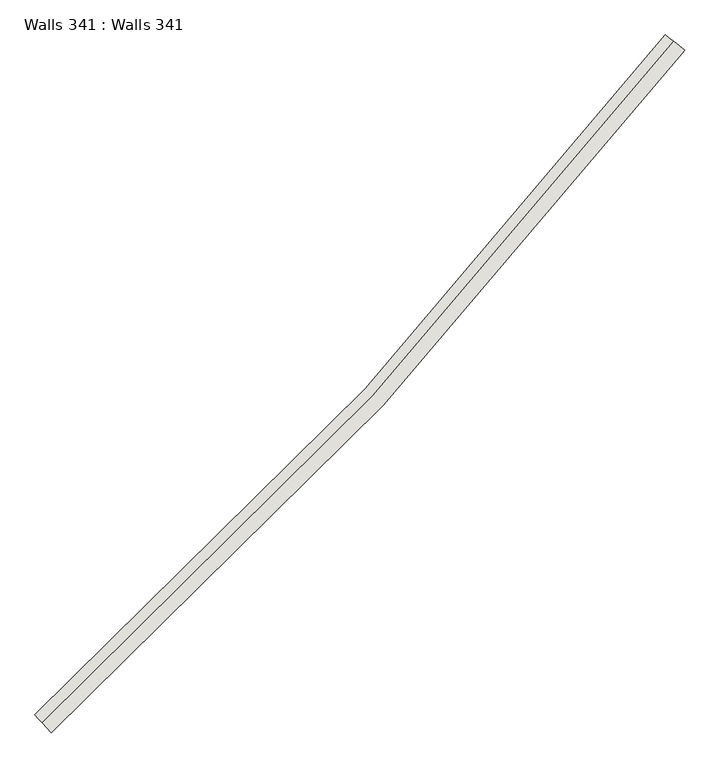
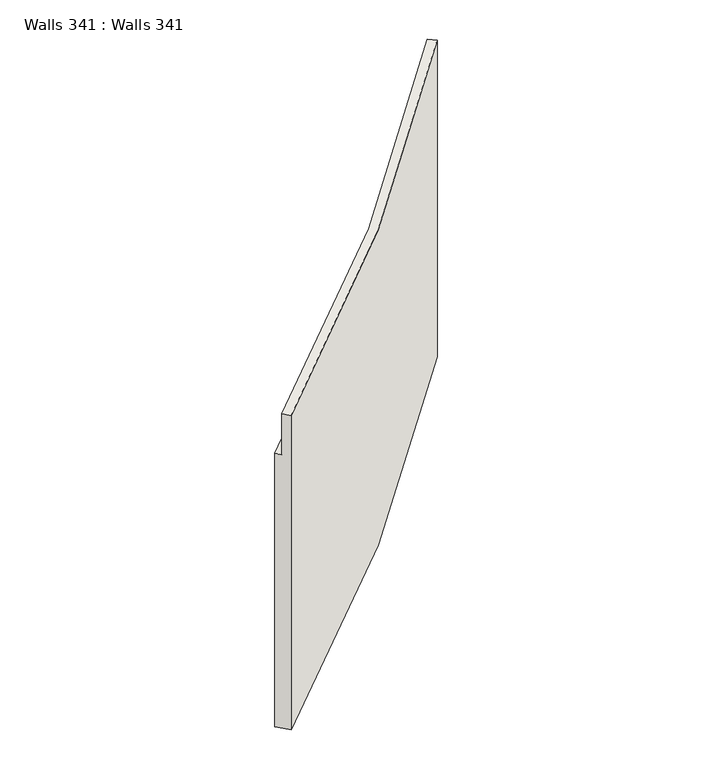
"""IFC4 building model written with IfcOpenShell, lengths in millimetres: wall geometry, Walls 341 : Walls 341."""

from ifc_helpers import new_model, si_unit, frame, origin, place, context, project, spatial, source, transform, mapped, element, save
from ifc_brep_helpers import plane_surface, spline_curve, spline_surface, advanced_brep


def walls_341_walls_341_388866be(model_context):
    return source(origin(), model_context, "Body", "AdvancedBrep", [
        advanced_brep(
        [(89831.9681821, -16068.2037455, 639913.0), (90066.6527194, -16327.8634612, 639913.0), (90066.6527194, -16327.8634612, 647621.0), (89932.5472695, -16179.4864808, 647621.0), (89932.5472695, -16179.4864808, 646621.0), (89831.9681821, -16068.2037455, 646621.0), (98768.793639, -6431.4807325, 640056.0), (98768.793639, -6431.4807325, 646824.0), (98887.3301787, -6523.3996573, 646824.0), (98887.3301787, -6523.3996573, 647824.0), (99045.3788984, -6645.9582238, 647824.0), (99045.3788984, -6645.9582238, 640056.0)],
        [
            (0, 1),
            (1, 2),
            (2, 3),
            (3, 4),
            (4, 5),
            (5, 0),
            (6, 7),
            (7, 8),
            (8, 9),
            (9, 10),
            (10, 11),
            (11, 6),
            (11, 1, spline_curve(3, [(99045.3788984, -6645.9582238, 640056.0), (97695.034979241, -8387.330807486, 640032.166666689), (96267.896604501, -10069.151874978, 640008.333333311), (93271.110406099, -13300.634761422, 639960.666666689), (91701.462581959, -14850.296580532, 639936.833333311), (90066.6527194, -16327.8634612, 639913.0)], [4, 2, 4], [0.0, 21.63634232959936, 43.272684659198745])),
            (0, 6, spline_curve(3, [(89831.9681821, -16068.2037455, 639913.0), (91459.148932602, -14597.532176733, 639936.833333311), (93021.471732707, -13055.102112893, 639960.666666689), (96004.272929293, -9838.699480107, 640008.333333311), (97424.751324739, -8164.726910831, 640032.166666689), (98768.793639, -6431.4807325, 640056.0)], [4, 2, 4], [0.0, 21.636342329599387, 43.272684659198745])),
            (10, 2, spline_curve(3, [(99045.3788984, -6645.9582238, 647824.0), (97695.03497957, -8387.330807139, 647790.166666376), (96267.896604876, -10069.151874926, 647756.333333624), (93271.110405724, -13300.634761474, 647688.666666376), (91701.462582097, -14850.296580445, 647654.833333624), (90066.6527194, -16327.8634612, 647621.0)], [4, 2, 4], [0.0, 21.687527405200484, 43.375054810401])),
            (9, 3, spline_curve(3, [(98887.3301787, -6523.3996573, 647824.0), (97540.587176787, -8260.128580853, 647790.166667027), (96117.254504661, -9937.464791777, 647756.333332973), (93128.459735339, -13160.330391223, 647688.666667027), (91562.997639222, -14705.859778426, 647654.833332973), (89932.5472695, -16179.4864808, 647621.0)], [4, 2, 4], [0.0, 21.65931638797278, 43.31863277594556])),
            (8, 4, spline_curve(3, [(98887.3301787, -6523.3996573, 646824.0), (97540.587176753, -8260.128580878, 646790.166666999), (96117.254504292, -9937.464792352, 646756.333333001), (93128.459735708, -13160.330390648, 646688.666666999), (91562.997639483, -14705.859778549, 646654.833333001), (89932.5472695, -16179.4864808, 646621.0)], [4, 2, 4], [0.0, 21.630405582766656, 43.26081116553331])),
            (7, 5, spline_curve(3, [(98768.793639, -6431.4807325, 646824.0), (97424.751324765, -8164.726910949, 646790.166666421), (96004.272928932, -9838.699479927, 646756.333333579), (93021.471733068, -13055.102113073, 646688.666666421), (91459.14893231, -14597.532176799, 646654.833333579), (89831.9681821, -16068.2037455, 646621.0)], [4, 2, 4], [0.0, 21.608722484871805, 43.21744496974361])),
        ],
        [
            plane_surface(frame((89943.7227236, -16191.8512292, 644718.3333333), z_axis=(-0.7418849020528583, -0.6705272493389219, 0.0), x_axis=(0.6705272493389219, -0.7418849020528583, 0.0))),
            plane_surface(frame((98900.5009054, -6533.6128712, 644901.3333333), z_axis=(0.6127928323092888, 0.7902435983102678, 0.0), x_axis=(0.7902435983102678, -0.6127928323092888, 0.0))),
            spline_surface(3, 3, [[(98768.793639, -6431.4807325, 640056.0), (97424.751324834, -8164.7269107, 640032.166666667), (96004.272929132, -9838.699479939, 640008.333333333), (93021.471732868, -13055.102113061, 639960.666666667), (91459.14893231, -14597.53217691, 639936.833333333), (89831.9681821, -16068.2037455, 639913.0)], [(98814.891182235, -6467.226981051, 640056.0), (97469.798600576, -8201.827560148, 640032.166666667), (96048.210208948, -9877.108211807, 640008.333333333), (93063.078177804, -13096.02422177, 639960.666666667), (91499.534540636, -14639.659577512, 639936.833333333), (89871.082271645, -16111.480364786, 639913.0)], [(98860.988725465, -6502.973229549, 640056.0), (97514.845876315, -8238.928209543, 640032.166666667), (96092.147487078, -9915.516945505, 640008.333333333), (93104.68462457, -13136.946328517, 639960.666666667), (91539.920148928, -14681.786978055, 639936.833333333), (89910.196361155, -16154.756984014, 639913.0)], [(98953.183811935, -6574.465726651, 640056.0), (97604.940427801, -8313.129508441, 640032.166666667), (96180.02204671, -9992.334409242, 640008.333333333), (93187.897514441, -13218.790545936, 639960.666666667), (91620.69136558, -14766.041779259, 639936.833333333), (89988.424540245, -16241.310222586, 639913.0)], [(98999.281355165, -6610.211975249, 640056.0), (97649.987703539, -8350.230157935, 640032.166666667), (96223.959324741, -10030.74314304, 640008.333333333), (93229.503961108, -13259.712652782, 639960.666666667), (91661.076973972, -14808.169179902, 639936.833333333), (90027.538629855, -16284.586841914, 639913.0)], [(99045.3788984, -6645.9582238, 640056.0), (97695.034979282, -8387.330807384, 640032.166666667), (96267.896604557, -10069.151874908, 640008.333333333), (93271.110406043, -13300.634761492, 639960.666666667), (91701.462582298, -14850.296580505, 639936.833333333), (90066.6527194, -16327.8634612, 639913.0)]], [4, 2, 4], [4, 2, 4], [0.0, 0.5741469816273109, 1.1482939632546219], [0.0, 21.63634232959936, 43.272684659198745]),
            spline_surface(3, 3, [[(99045.3788984, -6645.9582238, 640056.0), (97695.034979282, -8387.330807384, 640032.166666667), (96267.896604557, -10069.151874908, 640008.333333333), (93271.110406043, -13300.634761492, 639960.666666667), (91701.462582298, -14850.296580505, 639936.833333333), (90066.6527194, -16327.8634612, 639913.0)], [(99045.3788984, -6645.9582238, 641350.666666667), (97695.034979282, -8387.330807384, 641325.166666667), (96267.896604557, -10069.151874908, 641299.666666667), (93271.110406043, -13300.634761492, 641248.666666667), (91701.462582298, -14850.296580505, 641223.166666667), (90066.6527194, -16327.8634612, 641197.666666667)], [(99045.3788984, -6645.9582238, 642645.333333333), (97695.034979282, -8387.330807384, 642618.166666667), (96267.896604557, -10069.151874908, 642591.0), (93271.110406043, -13300.634761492, 642536.666666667), (91701.462582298, -14850.296580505, 642509.5), (90066.6527194, -16327.8634612, 642482.333333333)], [(99045.3788984, -6645.9582238, 645234.666666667), (97695.034979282, -8387.330807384, 645204.166666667), (96267.896604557, -10069.151874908, 645173.666666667), (93271.110406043, -13300.634761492, 645112.666666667), (91701.462582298, -14850.296580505, 645082.166666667), (90066.6527194, -16327.8634612, 645051.666666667)], [(99045.3788984, -6645.9582238, 646529.333333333), (97695.034979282, -8387.330807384, 646497.166666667), (96267.896604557, -10069.151874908, 646465.0), (93271.110406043, -13300.634761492, 646400.666666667), (91701.462582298, -14850.296580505, 646368.5), (90066.6527194, -16327.8634612, 646336.333333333)], [(99045.3788984, -6645.9582238, 647824.0), (97695.034979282, -8387.330807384, 647790.166666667), (96267.896604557, -10069.151874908, 647756.333333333), (93271.110406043, -13300.634761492, 647688.666666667), (91701.462582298, -14850.296580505, 647654.833333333), (90066.6527194, -16327.8634612, 647621.0)]], [4, 2, 4], [4, 2, 4], [0.0, 12.6935695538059, 25.3871391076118], [0.0, 21.687527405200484, 43.375054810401]),
            spline_surface(3, 3, [[(99045.3788984, -6645.9582238, 647824.0), (97695.034979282, -8387.330807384, 647790.166666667), (96267.896604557, -10069.151874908, 647756.333333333), (93271.110406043, -13300.634761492, 647688.666666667), (91701.462582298, -14850.296580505, 647654.833333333), (90066.6527194, -16327.8634612, 647621.0)], [(99019.037445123, -6625.531796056, 647824.0), (97669.293678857, -8366.13043627, 647790.166666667), (96242.789587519, -10047.204028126, 647756.333333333), (93247.335294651, -13277.250699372, 647688.666666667), (91678.385091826, -14826.22378016, 647654.833333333), (90044.301811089, -16303.133964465, 647621.0)], [(98992.695991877, -6605.105368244, 647824.0), (97643.552378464, -8344.930065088, 647790.166666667), (96217.68257153, -10025.256180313, 647756.333333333), (93223.560182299, -13253.866638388, 647688.666666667), (91655.307601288, -14802.150979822, 647654.833333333), (90021.950902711, -16278.404467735, 647621.0)], [(98940.013085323, -6564.252512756, 647824.0), (97592.069777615, -8302.529322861, 647790.166666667), (96167.468537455, -9981.360486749, 647756.333333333), (93176.009959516, -13207.098514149, 647688.666666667), (91609.152620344, -14754.005379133, 647654.833333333), (89977.249086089, -16228.945474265, 647621.0)], [(98913.671631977, -6543.826085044, 647824.0), (97566.328477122, -8281.328951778, 647790.166666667), (96142.361521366, -9959.412638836, 647756.333333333), (93152.234847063, -13183.714453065, 647688.666666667), (91586.075129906, -14729.932578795, 647654.833333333), (89954.898177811, -16204.215977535, 647621.0)], [(98887.3301787, -6523.3996573, 647824.0), (97540.587176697, -8260.128580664, 647790.166666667), (96117.254504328, -9937.464792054, 647756.333333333), (93128.459735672, -13160.330390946, 647688.666666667), (91562.997639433, -14705.85977845, 647654.833333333), (89932.5472695, -16179.4864808, 647621.0)]], [4, 2, 4], [4, 2, 4], [0.0, 0.32808398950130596, 0.6561679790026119], [0.0, 21.65931638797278, 43.31863277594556]),
            spline_surface(3, 3, [[(98887.3301787, -6523.3996573, 647824.0), (97540.587176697, -8260.128580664, 647790.166666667), (96117.254504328, -9937.464792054, 647756.333333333), (93128.459735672, -13160.330390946, 647688.666666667), (91562.997639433, -14705.85977845, 647654.833333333), (89932.5472695, -16179.4864808, 647621.0)], [(98887.3301787, -6523.3996573, 647657.333333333), (97540.587176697, -8260.128580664, 647623.5), (96117.254504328, -9937.464792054, 647589.666666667), (93128.459735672, -13160.330390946, 647522.0), (91562.997639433, -14705.85977845, 647488.166666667), (89932.5472695, -16179.4864808, 647454.333333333)], [(98887.3301787, -6523.3996573, 647490.666666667), (97540.587176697, -8260.128580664, 647456.833333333), (96117.254504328, -9937.464792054, 647423.0), (93128.459735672, -13160.330390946, 647355.333333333), (91562.997639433, -14705.85977845, 647321.5), (89932.5472695, -16179.4864808, 647287.666666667)], [(98887.3301787, -6523.3996573, 647157.333333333), (97540.587176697, -8260.128580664, 647123.5), (96117.254504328, -9937.464792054, 647089.666666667), (93128.459735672, -13160.330390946, 647022.0), (91562.997639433, -14705.85977845, 646988.166666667), (89932.5472695, -16179.4864808, 646954.333333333)], [(98887.3301787, -6523.3996573, 646990.666666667), (97540.587176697, -8260.128580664, 646956.833333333), (96117.254504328, -9937.464792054, 646923.0), (93128.459735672, -13160.330390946, 646855.333333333), (91562.997639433, -14705.85977845, 646821.5), (89932.5472695, -16179.4864808, 646787.666666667)], [(98887.3301787, -6523.3996573, 646824.0), (97540.587176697, -8260.128580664, 646790.166666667), (96117.254504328, -9937.464792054, 646756.333333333), (93128.459735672, -13160.330390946, 646688.666666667), (91562.997639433, -14705.85977845, 646654.833333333), (89932.5472695, -16179.4864808, 646621.0)]], [4, 2, 4], [4, 2, 4], [0.0, 1.6404199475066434, 3.280839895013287], [0.0, 21.630405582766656, 43.26081116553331]),
            spline_surface(3, 3, [[(98887.3301787, -6523.3996573, 646824.0), (97540.587176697, -8260.128580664, 646790.166666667), (96117.254504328, -9937.464792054, 646756.333333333), (93128.459735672, -13160.330390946, 646688.666666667), (91562.997639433, -14705.85977845, 646654.833333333), (89932.5472695, -16179.4864808, 646621.0)], [(98867.574088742, -6508.079836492, 646824.0), (97521.281201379, -8244.228302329, 646790.166666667), (96098.42424155, -9921.003906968, 646756.333333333), (93110.628402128, -13142.792344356, 646688.666666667), (91545.689521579, -14687.805178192, 646654.833333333), (89915.784088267, -16160.939358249, 646621.0)], [(98847.817998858, -6492.760015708, 646824.0), (97501.975226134, -8228.328024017, 646790.166666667), (96079.593979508, -9904.543021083, 646756.333333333), (93092.797067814, -13125.254298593, 646688.666666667), (91528.381403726, -14669.750577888, 646654.833333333), (89899.020907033, -16142.392235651, 646621.0)], [(98808.305818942, -6462.120374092, 646824.0), (97463.363275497, -8196.527467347, 646790.166666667), (96041.933453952, -9871.62125091, 646756.333333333), (93057.134400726, -13090.178205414, 646688.666666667), (91493.765168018, -14633.641377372, 646654.833333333), (89865.494544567, -16105.297990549, 646621.0)], [(98788.549728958, -6446.800553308, 646824.0), (97444.057300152, -8180.627189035, 646790.166666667), (96023.10319191, -9855.160365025, 646756.333333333), (93039.303066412, -13072.640159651, 646688.666666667), (91476.457050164, -14615.586777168, 646654.833333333), (89848.731363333, -16086.750868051, 646621.0)], [(98768.793639, -6431.4807325, 646824.0), (97424.751324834, -8164.7269107, 646790.166666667), (96004.272929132, -9838.699479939, 646756.333333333), (93021.471732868, -13055.102113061, 646688.666666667), (91459.14893231, -14597.53217691, 646654.833333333), (89831.9681821, -16068.2037455, 646621.0)]], [4, 2, 4], [4, 2, 4], [0.0, 0.24606299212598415, 0.4921259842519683], [0.0, 21.608722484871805, 43.21744496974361]),
            spline_surface(3, 3, [[(98768.793639, -6431.4807325, 646824.0), (97424.751324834, -8164.7269107, 646790.166666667), (96004.272929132, -9838.699479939, 646756.333333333), (93021.471732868, -13055.102113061, 646688.666666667), (91459.14893231, -14597.53217691, 646654.833333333), (89831.9681821, -16068.2037455, 646621.0)], [(98768.793639, -6431.4807325, 645696.0), (97424.751324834, -8164.7269107, 645663.833333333), (96004.272929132, -9838.699479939, 645631.666666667), (93021.471732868, -13055.102113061, 645567.333333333), (91459.14893231, -14597.53217691, 645535.166666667), (89831.9681821, -16068.2037455, 645503.0)], [(98768.793639, -6431.4807325, 644568.0), (97424.751324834, -8164.7269107, 644537.5), (96004.272929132, -9838.699479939, 644507.0), (93021.471732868, -13055.102113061, 644446.0), (91459.14893231, -14597.53217691, 644415.5), (89831.9681821, -16068.2037455, 644385.0)], [(98768.793639, -6431.4807325, 642312.0), (97424.751324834, -8164.7269107, 642284.833333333), (96004.272929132, -9838.699479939, 642257.666666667), (93021.471732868, -13055.102113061, 642203.333333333), (91459.14893231, -14597.53217691, 642176.166666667), (89831.9681821, -16068.2037455, 642149.0)], [(98768.793639, -6431.4807325, 641184.0), (97424.751324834, -8164.7269107, 641158.5), (96004.272929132, -9838.699479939, 641133.0), (93021.471732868, -13055.102113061, 641082.0), (91459.14893231, -14597.53217691, 641056.5), (89831.9681821, -16068.2037455, 641031.0)], [(98768.793639, -6431.4807325, 640056.0), (97424.751324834, -8164.7269107, 640032.166666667), (96004.272929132, -9838.699479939, 640008.333333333), (93021.471732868, -13055.102113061, 639960.666666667), (91459.14893231, -14597.53217691, 639936.833333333), (89831.9681821, -16068.2037455, 639913.0)]], [4, 2, 4], [4, 2, 4], [0.0, 11.053149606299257, 22.106299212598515], [0.0, 21.58633631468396, 43.17267262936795]),
        ],
        [
            (0, [[1, 2, 3, 4, 5, 6]]),
            (1, [[7, 8, 9, 10, 11, 12]]),
            (2, [[-12, 13, -1, 14]]),
            (3, [[-11, 15, -2, -13]]),
            (4, [[-10, 16, -3, -15]]),
            (5, [[-9, 17, -4, -16]]),
            (6, [[-8, 18, -5, -17]]),
            (7, [[-7, -14, -6, -18]]),
        ],
    ),
    ])


if __name__ == "__main__":
    model = new_model("IFC4")
    model_context = context("Model", 3, world=origin())
    ifc_project = project(units=[si_unit("LENGTHUNIT", "METRE", prefix="MILLI")], contexts=[model_context])
    site = spatial("IfcSite", under=ifc_project)
    building = spatial("IfcBuilding", under=site)
    placement = place(None, origin())
    walls_341_walls_341_shape = walls_341_walls_341_388866be(model_context)
    element("IfcWall", 1, ObjectType="Walls 341 : Walls 341", at=placement, inside=building, context=model_context, shape_type="MappedRepresentation", body=[
        mapped(walls_341_walls_341_shape, transform((0.0, 0.0, 0.0), x_axis=(1.0, 0.0, 0.0), y_axis=(0.0, 1.0, 0.0), z_axis=(0.0, 0.0, 1.0))),
    ])
    save(model, "model.ifc")
